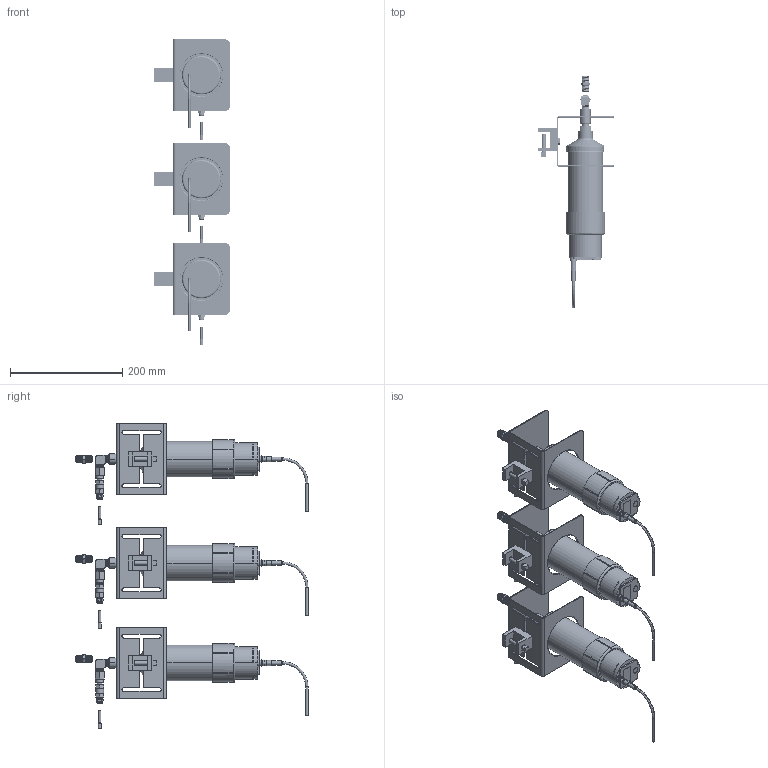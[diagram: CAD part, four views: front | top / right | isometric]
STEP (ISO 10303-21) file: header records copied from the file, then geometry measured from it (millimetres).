
FILE_DESCRIPTION((''),'2;1');
FILE_NAME('C920605_ASM','2024-08-14T11:46:50',('RRajan1'),('Rockwell Automation'),'CREO PARAMETRIC BY PTC INC, 2020281','CREO PARAMETRIC BY PTC INC, 2020281','');
FILE_SCHEMA(('CONFIG_CONTROL_DESIGN'));
Length unit declared in the file: millimetre
Products named in the file (18): B920571; B920575; 10005249350; 10005249351; 10005249352_ASM; 10005251359; 10005251342; 10005251343; 10005251341_ASM; A920579; A920581; A920576; B920574; A920577; A920591; A920601; A920578; C920605_ASM
Assembly tree (43 placements, depth 3):
  C920605_ASM
    B920571  x3
    B920575  x3
    10005249352_ASM  x3
      10005249350
      10005249351
    10005251359  x3
    10005251341_ASM  x3
      10005251342
      10005251343
    A920579  x3
    A920581  x3
    A920576  x3
    B920574  x3
    A920577  x3
    A920591  x3
    A920601  x3
    A920578  x3
Bounding box: 135.13 x 412.82 x 543.11 mm (x, y, z)
Volume: 1502144.4 mm3; surface area: 571895.3 mm2
Topology: 45 solids, 60 shells, 2079 faces, 5325 edges, 3459 vertices
Faces by surface type: cone 747, plane 657, cylinder 525, torus 78, bspline 66, extrusion 6
Entity records: 38247 total; most frequent: CARTESIAN_POINT 21554, ORIENTED_EDGE 3535, DIRECTION 3177, EDGE_CURVE 1775, AXIS2_PLACEMENT_3D 1253, VERTEX_POINT 1153, EDGE_LOOP 755, FACE_OUTER_BOUND 693
